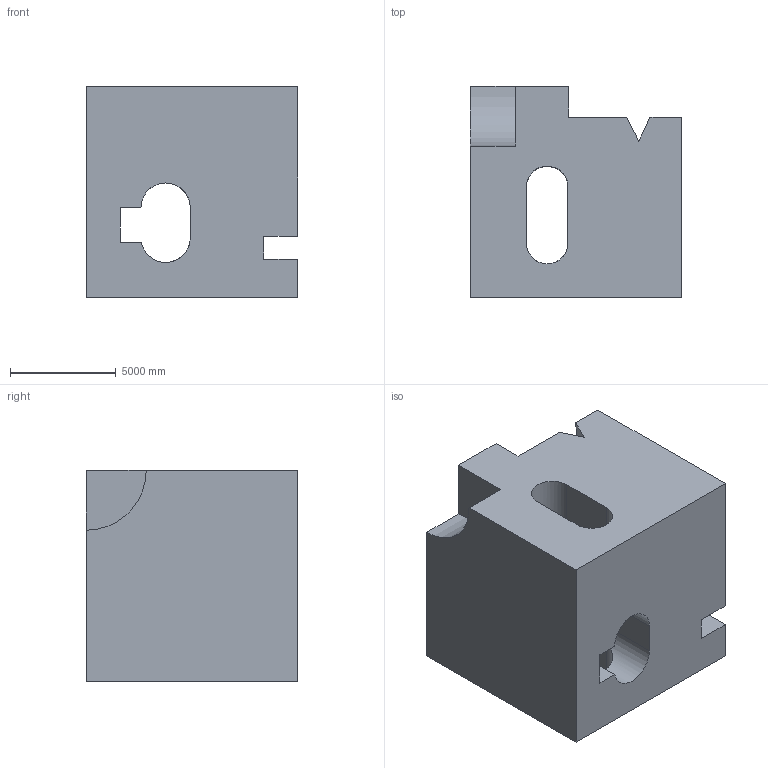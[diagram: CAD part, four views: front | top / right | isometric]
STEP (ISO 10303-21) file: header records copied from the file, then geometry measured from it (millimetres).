
FILE_DESCRIPTION (( 'STEP AP203' ), '1' );
FILE_NAME ('656.STEP', '2022-07-29T12:20:36', ( 'user' ), ( '' ), 'SwSTEP 2.0', 'SolidWorks 2021', '' );
FILE_SCHEMA (( 'CONFIG_CONTROL_DESIGN' ));
Length unit declared in the file: centimetre
Products named in the file (1): 656
Bounding box: 10000 x 10000 x 10000 mm (x, y, z)
Volume: 715337490281.6 mm3; surface area: 744951050.1 mm2
Topology: 1 solids, 1 shells, 35 faces, 105 edges, 70 vertices
Faces by surface type: plane 27, cylinder 8
Entity records: 1919 total; most frequent: CARTESIAN_POINT 891, ORIENTED_EDGE 210, DIRECTION 180, EDGE_CURVE 105, VECTOR 84, LINE 84, VERTEX_POINT 70, AXIS2_PLACEMENT_3D 48
